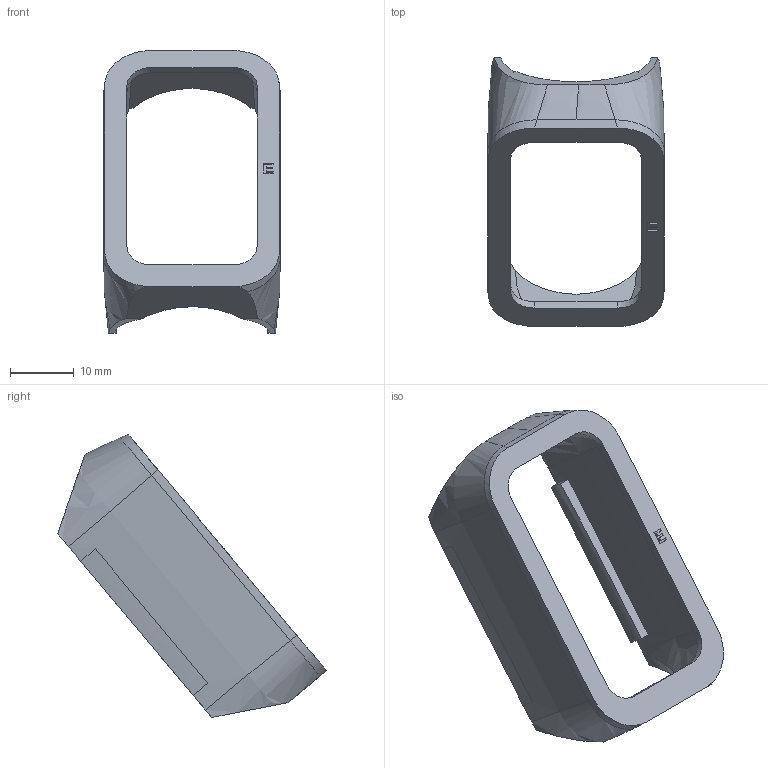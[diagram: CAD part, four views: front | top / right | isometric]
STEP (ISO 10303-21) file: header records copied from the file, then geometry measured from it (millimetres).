
FILE_DESCRIPTION(('Open CASCADE Model'),'2;1');
FILE_NAME('Open CASCADE Shape Model','1970-01-01T00:00:00',('Author'),( 'Open CASCADE'),'Open CASCADE STEP processor 7.8','Open CASCADE 7.8' ,'Unknown');
FILE_SCHEMA(('AUTOMOTIVE_DESIGN { 1 0 10303 214 1 1 1 1 }'));
Length unit declared in the file: millimetre
Products named in the file (2): Open CASCADE STEP translator 7.8 5; cover-retention-e
Assembly tree (1 placements, depth 2):
  Open CASCADE STEP translator 7.8 5
    cover-retention-e
Bounding box: 27.76 x 42.29 x 44.52 mm (x, y, z)
Volume: 3602.9 mm3; surface area: 5205.3 mm2
Topology: 1 solids, 1 shells, 72 faces, 207 edges, 138 vertices
Faces by surface type: bspline 45, plane 23, cylinder 4
Entity records: 10119 total; most frequent: CARTESIAN_POINT 7037, B_SPLINE_CURVE_WITH_KNOTS 430, ORIENTED_EDGE 414, PCURVE 414, DEFINITIONAL_REPRESENTATION 414, DIRECTION 219, EDGE_CURVE 207, SURFACE_CURVE 207
